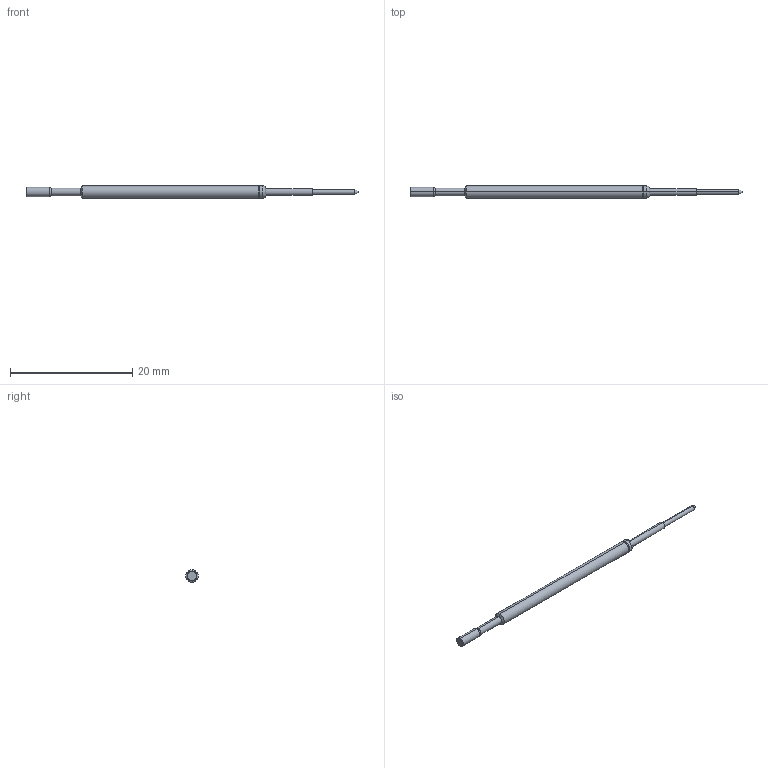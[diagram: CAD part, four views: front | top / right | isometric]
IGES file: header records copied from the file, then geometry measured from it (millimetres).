
Start section: SolidWorks IGES file using analytic representation for surfaces
Global section: file name: Y:\probe solid model mockups\Solidworks models\IGES Files\MSP-3C IGES files\MSP-3C.IGS; native system: SolidWorks 2015; preprocessor: SolidWorks 2015; author: adalager; date: 171129.100004; units: inch
Bounding box: 54.36 x 2.03 x 2.03 mm (x, y, z)
Surface area: 283.3 mm2 (no closed solid volume)
Topology: 0 solids, 0 shells, 27 faces, 160 edges, 160 vertices
Faces by surface type: revolution 18, bspline 9
